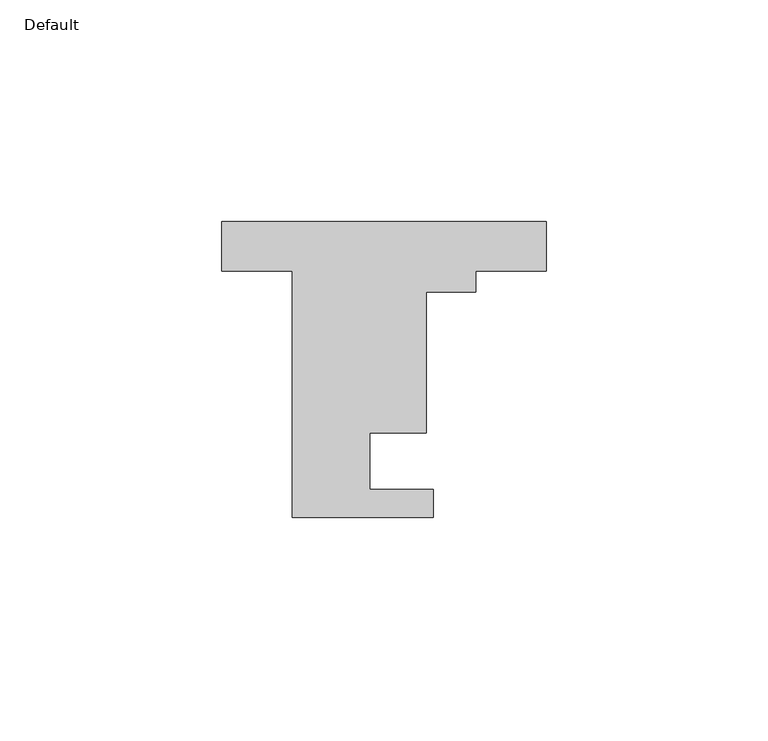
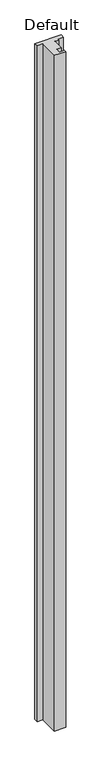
"""IFC4 building model written with IfcOpenShell, lengths in millimetres: proxy geometry, Double Door  Mullion Glazing Unit : Default."""

from ifc_helpers import new_model, si_unit, frame, origin, place, context, project, spatial, polyline, outline, extrude, source, transform, mapped, element, save


def default_b7455459(model_context):
    return source(origin(), model_context, "Body", "SweptSolid", [
        extrude(outline(polyline([(-36.5125, 69.85), (-36.5125, 80.9625), (36.5125, 80.9625), (36.5125, 69.85), (20.6375, 69.85), (20.6375, 65.0875), (9.525, 65.0875), (9.525, 33.3375), (-3.175, 33.3375), (-3.175, 20.6375), (11.1125, 20.6375), (11.1125, 14.2875), (-20.6375, 14.2875), (-20.6375, 69.85), (-36.5125, 69.85)])), frame((0.0, 0.0, 20.6375), z_axis=(0.0, 0.0, 1.0), x_axis=(1.0, 0.0, 0.0)), (0.0, 0.0, 1.0), 1992.3125),
    ])


if __name__ == "__main__":
    model = new_model("IFC4")
    model_context = context("Model", 3, world=origin())
    ifc_project = project(units=[si_unit("LENGTHUNIT", "METRE", prefix="MILLI")], contexts=[model_context])
    site = spatial("IfcSite", under=ifc_project)
    building = spatial("IfcBuilding", under=site)
    placement = place(None, origin())
    default_shape = default_b7455459(model_context)
    element("IfcBuildingElementProxy", 1, Name="Double Door  Mullion Glazing Unit : Default", ObjectType="Double Door  Mullion Glazing Unit : Default", at=placement, inside=building, context=model_context, shape_type="MappedRepresentation", body=[
        mapped(default_shape, transform((0.0, 0.0, 0.0), x_axis=(1.0, 0.0, 0.0), y_axis=(0.0, 1.0, 0.0), z_axis=(0.0, 0.0, 1.0))),
    ])
    save(model, "model.ifc")
